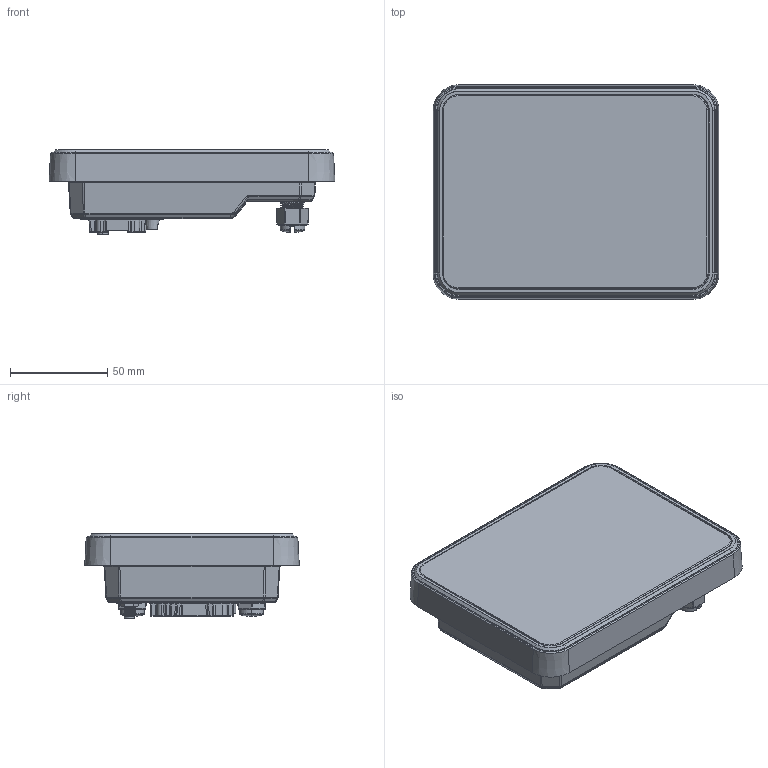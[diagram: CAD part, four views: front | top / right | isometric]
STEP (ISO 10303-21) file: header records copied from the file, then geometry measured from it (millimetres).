
FILE_DESCRIPTION (( 'STEP AP214' ), '1' );
FILE_NAME ('CL-713-100-XX-0XX.STEP', '2020-09-04T16:35:35', ( '' ), ( '' ), 'SwSTEP 2.0', 'SolidWorks 2019', '' );
FILE_SCHEMA (( 'AUTOMOTIVE_DESIGN' ));
Length unit declared in the file: inch
Products named in the file (1): CL-713-100-XX-0XX
Bounding box: 146.81 x 110.16 x 43.92 mm (x, y, z)
Volume: 458727.4 mm3; surface area: 100089.7 mm2
Topology: 2 solids, 12 shells, 1976 faces, 4894 edges, 2999 vertices
Faces by surface type: cylinder 600, plane 527, bspline 324, cone 281, sphere 146, torus 98
Entity records: 108086 total; most frequent: CARTESIAN_POINT 40132, ORIENTED_EDGE 9704, DIRECTION 8363, EDGE_CURVE 4852, AXIS2_PLACEMENT_3D 3237, VERTEX_POINT 2999, EDGE_LOOP 2109, FACE_OUTER_BOUND 1976
